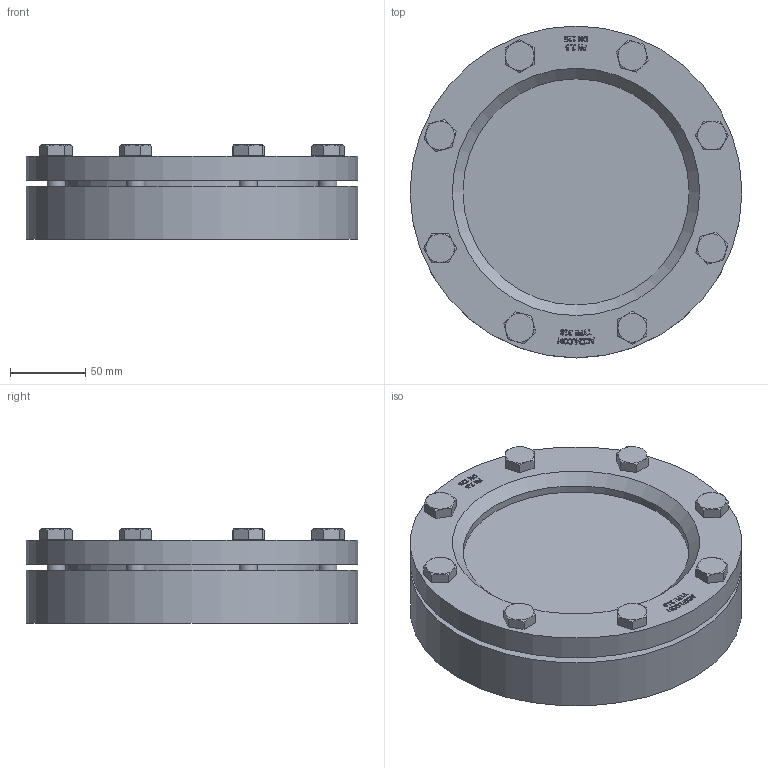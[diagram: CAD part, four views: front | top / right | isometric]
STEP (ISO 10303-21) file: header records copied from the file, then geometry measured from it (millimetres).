
FILE_DESCRIPTION(/* description */ (''),/* implementation_level */ '2;1');
FILE_NAME(/* name */ 'W:\Konstruktion_ACI\318\_STEP\ACI-318-125.stp',/* time_stamp */ '2022-03-02T18:05:41+01:00',/* author */ ('Travnicek'),/* organization */ (''),/* preprocessor_version */ 'ST-DEVELOPER v16.1',/* originating_system */ 'Autodesk Inventor 2016',/* authorisation */ '');
FILE_SCHEMA (('AUTOMOTIVE_DESIGN { 1 0 10303 214 3 1 1 }'));
Length unit declared in the file: centimetre
Products named in the file (1): ACI-318-125.stp
Bounding box: 220 x 220 x 62.5 mm (x, y, z)
Volume: 1477244.1 mm3; surface area: 156253.1 mm2
Topology: 1 solids, 1 shells, 543 faces, 1411 edges, 924 vertices
Faces by surface type: plane 303, bspline 169, cone 50, cylinder 21
Full cylindrical faces by diameter (mm): 12 x8, 17.2 x8, 150 x2, 175 x1, 220 x2
Entity records: 17704 total; most frequent: CARTESIAN_POINT 5245, ORIENTED_EDGE 2776, DIRECTION 1796, EDGE_CURVE 1388, VERTEX_POINT 924, LINE 862, VECTOR 862, EDGE_LOOP 636
